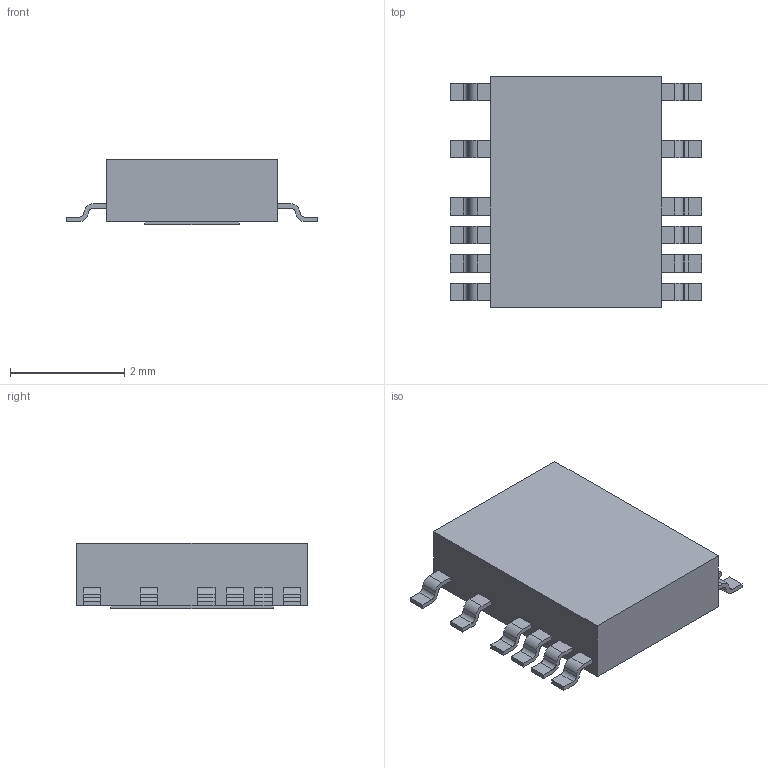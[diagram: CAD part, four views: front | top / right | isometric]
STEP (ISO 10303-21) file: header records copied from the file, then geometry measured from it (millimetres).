
FILE_DESCRIPTION(('STEP AP214'),'1');
FILE_NAME('MSE_16A_ADI','2023-03-12T21:17:45',(''),(''),'','','');
FILE_SCHEMA(('AUTOMOTIVE_DESIGN'));
Length unit declared in the file: millimetre
Products named in the file (1): product
Bounding box: 4.41 x 4.04 x 1.14 mm (x, y, z)
Volume: 13.7 mm3; surface area: 57.7 mm2
Topology: 14 solids, 14 shells, 180 faces, 456 edges, 304 vertices
Faces by surface type: plane 132, cylinder 48
Entity records: 5193 total; most frequent: DIRECTION 914, ORIENTED_EDGE 912, CARTESIAN_POINT 533, EDGE_CURVE 456, LINE 360, VECTOR 360, VERTEX_POINT 304, AXIS2_PLACEMENT_3D 277
